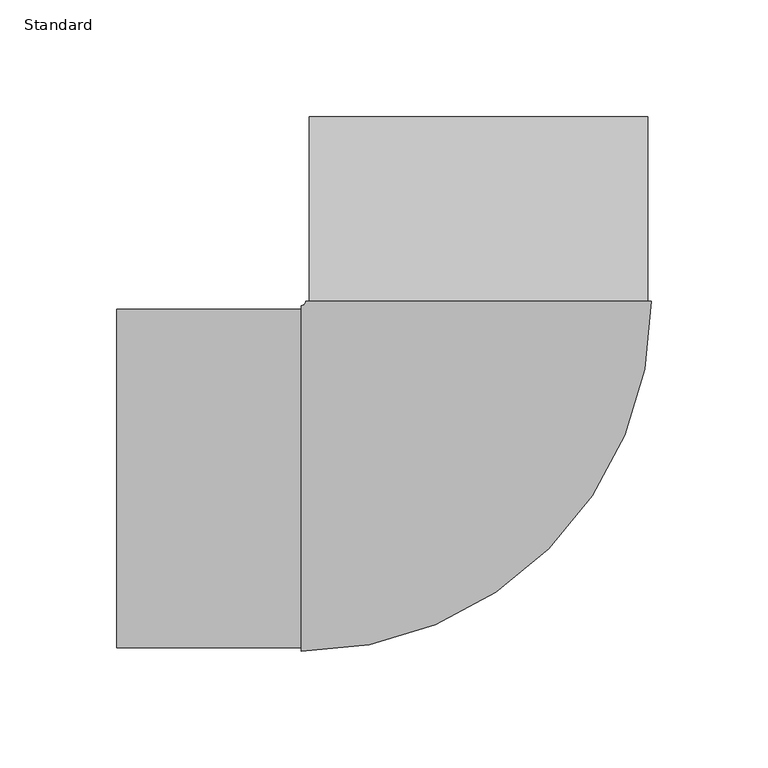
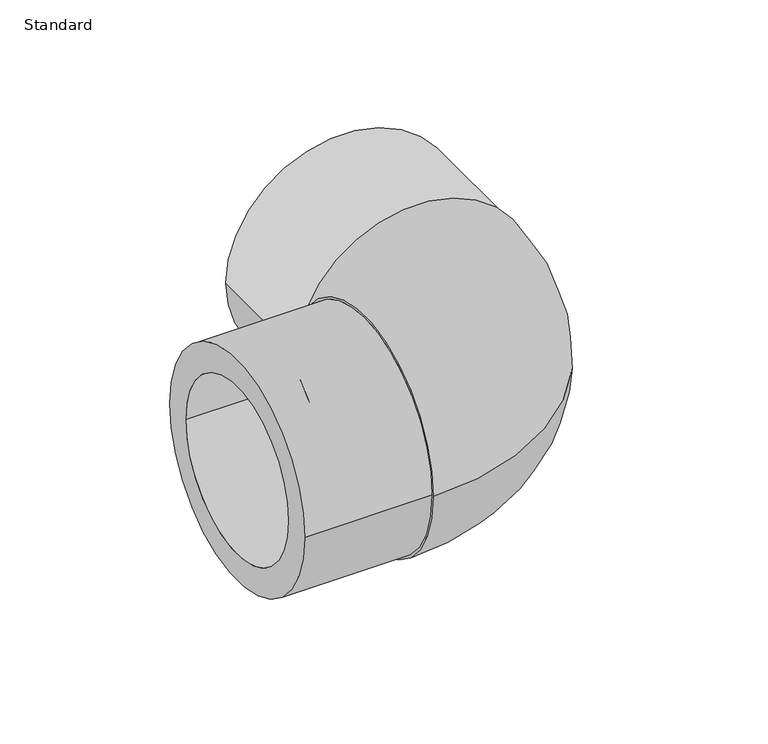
"""IFC4 building model written with IfcOpenShell, lengths in millimetres: pipe fitting geometry, EGB_VASEN_ PPR_Codo a tope 90 WXRB200_Codo a tope 45 WXRB220 : Standard."""

from ifc_helpers import new_model, si_unit, point, frame, origin, place, context, project, spatial, polyline, circle_curve, ellipse_curve, trimmed, source, transform, mapped, element, save
from ifc_brep_helpers import plane_surface, cylinder_surface, revolved_surface, advanced_brep


def standard_8bde467e(model_context):
    return source(origin(), model_context, "Body", "AdvancedBrep", [
        advanced_brep(
        [(-155.0, -72.5, 0.0), (-155.0, 72.5, 0.0), (-155.0, -55.0, 0.0), (-155.0, 55.0, 0.0), (-76.0, -72.5, 0.0), (-76.0, 72.5, 0.0), (-76.0, -55.0, 0.0), (-76.0, 55.0, 0.0), (-76.0, -74.0, 0.0), (-76.0, 74.0, 0.0), (74.0, 76.0, 0.0), (-74.0, 76.0, 0.0), (72.5, 76.0, 0.0), (-72.5, 76.0, 0.0), (55.0, 76.0, 0.0), (-55.0, 76.0, 0.0), (72.5, 155.0, 0.0), (-72.5, 155.0, 0.0), (55.0, 155.0, 0.0), (-55.0, 155.0, 0.0)],
        [
            (0, 1, circle_curve(frame((-155.0, 0.0, 0.0), z_axis=(-1.0, 0.0, 0.0), x_axis=(0.0, 1.0, 0.0)), 72.5)),
            (1, 0, circle_curve(frame((-155.0, 0.0, 0.0), z_axis=(-1.0, 0.0, 0.0), x_axis=(0.0, 1.0, 0.0)), 72.5)),
            (2, 3, circle_curve(frame((-155.0, 0.0, 0.0), z_axis=(1.0, 0.0, 0.0), x_axis=(0.0, 1.0, 0.0)), 55.0)),
            (3, 2, circle_curve(frame((-155.0, 0.0, 0.0), z_axis=(1.0, 0.0, 0.0), x_axis=(0.0, 1.0, 0.0)), 55.0)),
            (0, 4),
            (4, 5, circle_curve(frame((-76.0, 0.0, 0.0), z_axis=(-1.0, 0.0, 0.0), x_axis=(0.0, 1.0, 0.0)), 72.5)),
            (5, 1),
            (5, 4, circle_curve(frame((-76.0, 0.0, 0.0), z_axis=(-1.0, 0.0, 0.0), x_axis=(0.0, 1.0, 0.0)), 72.5)),
            (2, 6),
            (6, 7, circle_curve(frame((-76.0, 0.0, 0.0), z_axis=(1.0, 0.0, 0.0), x_axis=(0.0, 1.0, 0.0)), 55.0)),
            (7, 3),
            (7, 6, circle_curve(frame((-76.0, 0.0, 0.0), z_axis=(1.0, 0.0, 0.0), x_axis=(0.0, 1.0, 0.0)), 55.0)),
            (8, 9, circle_curve(frame((-76.0, 0.0, 0.0), z_axis=(-1.0, 0.0, 0.0), x_axis=(0.0, 1.0, 0.0)), 74.0)),
            (9, 8, circle_curve(frame((-76.0, 0.0, 0.0), z_axis=(-1.0, 0.0, 0.0), x_axis=(0.0, 1.0, 0.0)), 74.0)),
            (10, 11, circle_curve(frame((0.0, 76.0, 0.0), z_axis=(0.0, 1.0, 0.0), x_axis=(-1.0, 0.0, 0.0)), 74.0)),
            (11, 10, circle_curve(frame((0.0, 76.0, 0.0), z_axis=(0.0, 1.0, 0.0), x_axis=(-1.0, 0.0, 0.0)), 74.0)),
            (12, 13, circle_curve(frame((0.0, 76.0, 0.0), z_axis=(0.0, -1.0, 0.0), x_axis=(-1.0, 0.0, 0.0)), 72.5)),
            (13, 12, circle_curve(frame((0.0, 76.0, 0.0), z_axis=(0.0, -1.0, 0.0), x_axis=(-1.0, 0.0, 0.0)), 72.5)),
            (14, 15, circle_curve(frame((0.0, 76.0, 0.0), z_axis=(0.0, 1.0, 0.0), x_axis=(-1.0, 0.0, 0.0)), 55.0)),
            (15, 14, circle_curve(frame((0.0, 76.0, 0.0), z_axis=(0.0, 1.0, 0.0), x_axis=(-1.0, 0.0, 0.0)), 55.0)),
            (8, 10, circle_curve(frame((-76.0, 76.0, 0.0), z_axis=(0.0, 0.0, 1.0), x_axis=(0.0, -1.0, 0.0)), 150.0)),
            (11, 9, circle_curve(frame((-76.0, 76.0, 0.0), z_axis=(0.0, 0.0, -1.0), x_axis=(0.0, -1.0, 0.0)), 2.0)),
            (16, 17, circle_curve(frame((0.0, 155.0, 0.0), z_axis=(0.0, 1.0, 0.0), x_axis=(-1.0, 0.0, 0.0)), 72.5)),
            (17, 16, circle_curve(frame((0.0, 155.0, 0.0), z_axis=(0.0, 1.0, 0.0), x_axis=(-1.0, 0.0, 0.0)), 72.5)),
            (18, 19, circle_curve(frame((0.0, 155.0, 0.0), z_axis=(0.0, -1.0, 0.0), x_axis=(-1.0, 0.0, 0.0)), 55.0)),
            (19, 18, circle_curve(frame((0.0, 155.0, 0.0), z_axis=(0.0, -1.0, 0.0), x_axis=(-1.0, 0.0, 0.0)), 55.0)),
            (17, 13),
            (12, 16),
            (19, 15),
            (14, 18),
        ],
        [
            plane_surface(frame((-155.0, 0.0, 0.0), z_axis=(-1.0, 0.0, 0.0), x_axis=(0.0, 0.0, 1.0))),
            cylinder_surface(frame((-155.0, 0.0, 0.0), z_axis=(-1.0, 0.0, 0.0), x_axis=(0.0, 1.0, 0.0)), 72.5),
            revolved_surface(polyline([(-76.0, 55.0, 0.0), (-155.0, 55.0, 0.0)]), (-155.0, 0.0, 0.0), (1.0, 0.0, 0.0)),
            plane_surface(frame((-76.0, 0.0, 0.0), z_axis=(-1.0, 0.0, 0.0), x_axis=(0.0, 0.0, 1.0))),
            plane_surface(frame((0.0, 76.0, 0.0), z_axis=(0.0, 1.0, 0.0), x_axis=(0.0, 0.0, 1.0))),
            revolved_surface(trimmed(ellipse_curve(frame((-76.0, 0.0, 0.0), z_axis=(-1.0, 0.0, 0.0), x_axis=(0.0, 1.0, 0.0)), 74.0, 74.0), [point((-76.0, -74.0, 0.0))], [point((-76.0, 74.0, 0.0))], True, "CARTESIAN"), (-76.0, 76.0, 0.0), (0.0, 0.0, 1.0)),
            revolved_surface(trimmed(ellipse_curve(frame((-76.0, 0.0, 0.0), z_axis=(-1.0, 0.0, 0.0), x_axis=(0.0, 1.0, 0.0)), 74.0, 74.0), [point((-76.0, 74.0, 0.0))], [point((-76.0, -74.0, 0.0))], True, "CARTESIAN"), (-76.0, 76.0, 0.0), (0.0, 0.0, 1.0)),
            plane_surface(frame((0.0, 155.0, 0.0), z_axis=(0.0, 1.0, 0.0), x_axis=(0.0, 0.0, 1.0))),
            cylinder_surface(frame((0.0, 76.0, 0.0), z_axis=(0.0, -1.0, 0.0), x_axis=(-1.0, 0.0, 0.0)), 72.5),
            revolved_surface(polyline([(-55.0, 155.0, 0.0), (-55.0, 76.0, 0.0)]), (0.0, 76.0, 0.0), (0.0, 1.0, 0.0)),
        ],
        [
            (0, [[1, 2], [3, 4]]),
            (1, [[-1, 5, 6, 7]]),
            (1, [[-2, -7, 8, -5]]),
            (2, [[-3, 9, 10, 11]]),
            (2, [[-4, -11, 12, -9]]),
            (3, [[-10, -12]]),
            (3, [[13, 14], [-6, -8]]),
            (4, [[15, 16], [17, 18]]),
            (4, [[19, 20]]),
            (5, [[-13, 21, -16, 22]]),
            (6, [[-14, -22, -15, -21]]),
            (7, [[23, 24], [25, 26]]),
            (8, [[-24, 27, -17, 28]]),
            (8, [[-23, -28, -18, -27]]),
            (9, [[-26, 29, -19, 30]]),
            (9, [[-25, -30, -20, -29]]),
        ],
    ),
    ])


if __name__ == "__main__":
    model = new_model("IFC4")
    model_context = context("Model", 3, world=origin())
    ifc_project = project(units=[si_unit("LENGTHUNIT", "METRE", prefix="MILLI")], contexts=[model_context])
    site = spatial("IfcSite", under=ifc_project)
    building = spatial("IfcBuilding", under=site)
    placement = place(None, origin())
    standard_shape = standard_8bde467e(model_context)
    element("IfcPipeFitting", 1, ObjectType="EGB_VASEN_ PPR_Codo a tope 90 WXRB200_Codo a tope 45 WXRB220 : Standard", at=placement, inside=building, context=model_context, shape_type="MappedRepresentation", body=[
        mapped(standard_shape, transform((0.0, 0.0, 0.0), x_axis=(1.0, 0.0, 0.0), y_axis=(0.0, 1.0, 0.0), z_axis=(0.0, 0.0, 1.0))),
    ])
    save(model, "model.ifc")
